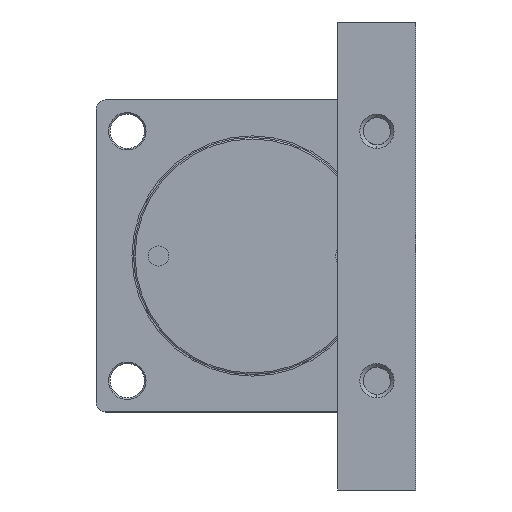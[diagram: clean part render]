
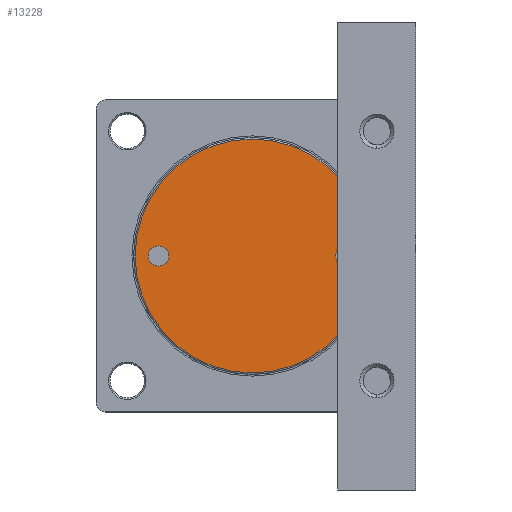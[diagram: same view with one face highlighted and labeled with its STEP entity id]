
A CAD part, left-side view. The second image highlights one B-rep face of the part: STEP entity #13228.
In plain terms, the highlighted planar face has unit normal (1, 0, 0).
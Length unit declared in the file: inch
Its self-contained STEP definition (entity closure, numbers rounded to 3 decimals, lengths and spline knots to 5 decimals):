
#69 = CARTESIAN_POINT ( 'NONE',  ( -1.37795, 2.95276, 0. ) ) ;
#358 = AXIS2_PLACEMENT_3D ( 'NONE', #9652, #9606, #9562 ) ;
#1385 = AXIS2_PLACEMENT_3D ( 'NONE', #11888, #1563, #8768 ) ;
#1563 = DIRECTION ( 'NONE',  ( 1., 0., 0. ) ) ;
#1877 = DIRECTION ( 'NONE',  ( -1., 0., 0. ) ) ;
#1889 = CIRCLE ( 'NONE', #9601, 0.25591 ) ;
#1900 = VERTEX_POINT ( 'NONE', #4476 ) ;
#1943 = CARTESIAN_POINT ( 'NONE',  ( -1.37795, 2.3622, 0. ) ) ;
#2176 = ORIENTED_EDGE ( 'NONE', *, *, #8064, .T. ) ;
#3007 = DIRECTION ( 'NONE',  ( 0., 0., 1. ) ) ;
#3276 = VERTEX_POINT ( 'NONE', #7965 ) ;
#3402 = VERTEX_POINT ( 'NONE', #8918 ) ;
#3708 = CIRCLE ( 'NONE', #4422, 0.25591 ) ;
#3838 = CARTESIAN_POINT ( 'NONE',  ( -1.37795, 0., 0. ) ) ;
#4422 = AXIS2_PLACEMENT_3D ( 'NONE', #1943, #9142, #3007 ) ;
#4476 = CARTESIAN_POINT ( 'NONE',  ( -1.37795, -2.95276, 0. ) ) ;
#4866 = DIRECTION ( 'NONE',  ( 0., 1., 0. ) ) ;
#5021 = CIRCLE ( 'NONE', #11820, 0.25591 ) ;
#5325 = CIRCLE ( 'NONE', #358, 0.25591 ) ;
#5570 = AXIS2_PLACEMENT_3D ( 'NONE', #12461, #12410, #12374 ) ;
#5675 = PLANE ( 'NONE',  #1385 ) ;
#5832 = EDGE_LOOP ( 'NONE', ( #9242, #5888 ) ) ;
#5888 = ORIENTED_EDGE ( 'NONE', *, *, #7005, .T. ) ;
#6805 = CARTESIAN_POINT ( 'NONE',  ( -1.37795, 2.3622, 0.25591 ) ) ;
#6871 = FACE_OUTER_BOUND ( 'NONE', #7116, .T. ) ;
#6911 = AXIS2_PLACEMENT_3D ( 'NONE', #3838, #11059, #4866 ) ;
#6919 = EDGE_CURVE ( 'NONE', #1900, #12348, #11170, .T. ) ;
#7005 = EDGE_CURVE ( 'NONE', #3276, #7827, #5021, .T. ) ;
#7116 = EDGE_LOOP ( 'NONE', ( #9937, #8401 ) ) ;
#7827 = VERTEX_POINT ( 'NONE', #12202 ) ;
#7965 = CARTESIAN_POINT ( 'NONE',  ( -1.37795, -2.3622, -0.25591 ) ) ;
#8064 = EDGE_CURVE ( 'NONE', #3402, #10021, #1889, .T. ) ;
#8067 = CARTESIAN_POINT ( 'NONE',  ( -1.37795, -2.3622, 0. ) ) ;
#8401 = ORIENTED_EDGE ( 'NONE', *, *, #6919, .T. ) ;
#8543 = ORIENTED_EDGE ( 'NONE', *, *, #13024, .T. ) ;
#8768 = DIRECTION ( 'NONE',  ( 0., 0., -1. ) ) ;
#8918 = CARTESIAN_POINT ( 'NONE',  ( -1.37795, 2.3622, -0.25591 ) ) ;
#9078 = DIRECTION ( 'NONE',  ( 0., 0., 1. ) ) ;
#9111 = CIRCLE ( 'NONE', #5570, 2.95276 ) ;
#9142 = DIRECTION ( 'NONE',  ( -1., 0., 0. ) ) ;
#9242 = ORIENTED_EDGE ( 'NONE', *, *, #11910, .T. ) ;
#9562 = DIRECTION ( 'NONE',  ( 0., 0., 1. ) ) ;
#9601 = AXIS2_PLACEMENT_3D ( 'NONE', #13039, #12232, #12191 ) ;
#9606 = DIRECTION ( 'NONE',  ( -1., 0., 0. ) ) ;
#9652 = CARTESIAN_POINT ( 'NONE',  ( -1.37795, -2.3622, 0. ) ) ;
#9801 = EDGE_CURVE ( 'NONE', #12348, #1900, #9111, .T. ) ;
#9937 = ORIENTED_EDGE ( 'NONE', *, *, #9801, .T. ) ;
#10021 = VERTEX_POINT ( 'NONE', #6805 ) ;
#11059 = DIRECTION ( 'NONE',  ( 1., 0., 0. ) ) ;
#11170 = CIRCLE ( 'NONE', #6911, 2.95276 ) ;
#11820 = AXIS2_PLACEMENT_3D ( 'NONE', #8067, #1877, #9078 ) ;
#11888 = CARTESIAN_POINT ( 'NONE',  ( -1.37795, 0., 0. ) ) ;
#11910 = EDGE_CURVE ( 'NONE', #7827, #3276, #5325, .T. ) ;
#12116 = FACE_BOUND ( 'NONE', #12612, .T. ) ;
#12191 = DIRECTION ( 'NONE',  ( 0., 0., 1. ) ) ;
#12202 = CARTESIAN_POINT ( 'NONE',  ( -1.37795, -2.3622, 0.25591 ) ) ;
#12232 = DIRECTION ( 'NONE',  ( -1., 0., 0. ) ) ;
#12348 = VERTEX_POINT ( 'NONE', #69 ) ;
#12374 = DIRECTION ( 'NONE',  ( 0., 1., 0. ) ) ;
#12410 = DIRECTION ( 'NONE',  ( 1., 0., 0. ) ) ;
#12461 = CARTESIAN_POINT ( 'NONE',  ( -1.37795, 0., 0. ) ) ;
#12612 = EDGE_LOOP ( 'NONE', ( #8543, #2176 ) ) ;
#12776 = FACE_BOUND ( 'NONE', #5832, .T. ) ;
#13024 = EDGE_CURVE ( 'NONE', #10021, #3402, #3708, .T. ) ;
#13039 = CARTESIAN_POINT ( 'NONE',  ( -1.37795, 2.3622, 0. ) ) ;
#13228 = ADVANCED_FACE ( 'NONE', ( #6871, #12776, #12116 ), #5675, .T. ) ;
